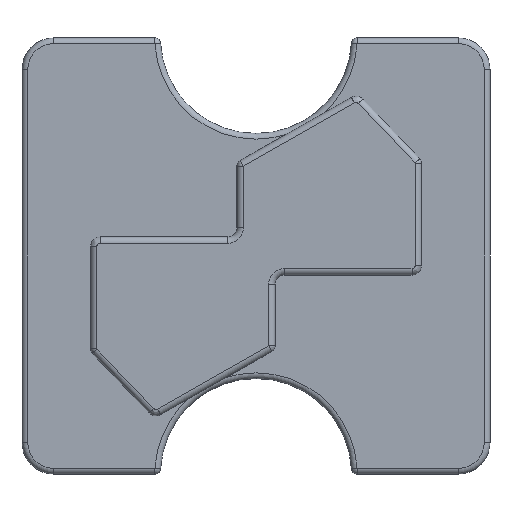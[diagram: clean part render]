
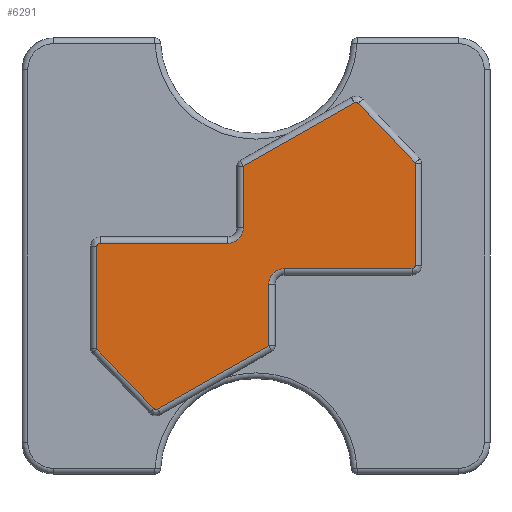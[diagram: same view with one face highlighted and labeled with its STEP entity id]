
A CAD part, front view. The second image highlights one B-rep face of the part: STEP entity #6291.
In plain terms, the highlighted planar face has unit normal (0, -1, 0).
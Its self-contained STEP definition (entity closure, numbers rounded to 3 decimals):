
#385=PLANE('',#6758);
#686=FACE_OUTER_BOUND('',#1089,.T.);
#1089=EDGE_LOOP('',(#5079,#5080,#5081,#5082,#5083,#5084,#5085,#5086,#5087,
#5088,#5089,#5090,#5091,#5092,#5093,#5094));
#1291=LINE('',#9003,#1743);
#1294=LINE('',#9012,#1746);
#1302=LINE('',#9051,#1754);
#1560=LINE('',#11974,#2012);
#1561=LINE('',#11990,#2013);
#1563=LINE('',#12002,#2015);
#1565=LINE('',#12022,#2017);
#1567=LINE('',#12034,#2019);
#1569=LINE('',#12053,#2021);
#1572=LINE('',#12062,#2024);
#1743=VECTOR('',#7205,10.);
#1746=VECTOR('',#7214,10.);
#1754=VECTOR('',#7258,10.);
#2012=VECTOR('',#7874,10.);
#2013=VECTOR('',#7883,10.);
#2015=VECTOR('',#7897,10.);
#2017=VECTOR('',#7909,10.);
#2019=VECTOR('',#7923,10.);
#2021=VECTOR('',#7935,10.);
#2024=VECTOR('',#7944,10.);
#2273=CIRCLE('',#6709,1.);
#2276=CIRCLE('',#6714,5.);
#2280=CIRCLE('',#6719,1.);
#2284=CIRCLE('',#6725,5.);
#2288=CIRCLE('',#6730,1.);
#2293=CIRCLE('',#6737,1.);
#2528=VERTEX_POINT('',#8998);
#2529=VERTEX_POINT('',#9002);
#2532=VERTEX_POINT('',#9010);
#2543=VERTEX_POINT('',#9043);
#2545=VERTEX_POINT('',#9049);
#2829=VERTEX_POINT('',#11967);
#2832=VERTEX_POINT('',#11972);
#2834=VERTEX_POINT('',#11985);
#2836=VERTEX_POINT('',#11994);
#2838=VERTEX_POINT('',#12000);
#2840=VERTEX_POINT('',#12014);
#2842=VERTEX_POINT('',#12020);
#2844=VERTEX_POINT('',#12026);
#2846=VERTEX_POINT('',#12032);
#2848=VERTEX_POINT('',#12046);
#2852=VERTEX_POINT('',#12060);
#3107=EDGE_CURVE('',#2528,#2529,#1291,.T.);
#3112=EDGE_CURVE('',#2532,#2528,#1294,.T.);
#3131=EDGE_CURVE('',#2545,#2543,#1302,.T.);
#3576=EDGE_CURVE('',#2832,#2829,#1560,.T.);
#3578=EDGE_CURVE('',#2834,#2832,#2273,.T.);
#3580=EDGE_CURVE('',#2543,#2834,#1561,.T.);
#3583=EDGE_CURVE('',#2836,#2545,#2276,.T.);
#3586=EDGE_CURVE('',#2838,#2836,#1563,.T.);
#3589=EDGE_CURVE('',#2840,#2838,#2280,.T.);
#3592=EDGE_CURVE('',#2842,#2840,#1565,.T.);
#3595=EDGE_CURVE('',#2844,#2532,#2284,.T.);
#3598=EDGE_CURVE('',#2846,#2844,#1567,.T.);
#3601=EDGE_CURVE('',#2848,#2846,#2288,.T.);
#3604=EDGE_CURVE('',#2829,#2848,#1569,.T.);
#3609=EDGE_CURVE('',#2852,#2842,#1572,.T.);
#3610=EDGE_CURVE('',#2529,#2852,#2293,.T.);
#5079=ORIENTED_EDGE('',*,*,#3112,.F.);
#5080=ORIENTED_EDGE('',*,*,#3595,.F.);
#5081=ORIENTED_EDGE('',*,*,#3598,.F.);
#5082=ORIENTED_EDGE('',*,*,#3601,.F.);
#5083=ORIENTED_EDGE('',*,*,#3604,.F.);
#5084=ORIENTED_EDGE('',*,*,#3576,.F.);
#5085=ORIENTED_EDGE('',*,*,#3578,.F.);
#5086=ORIENTED_EDGE('',*,*,#3580,.F.);
#5087=ORIENTED_EDGE('',*,*,#3131,.F.);
#5088=ORIENTED_EDGE('',*,*,#3583,.F.);
#5089=ORIENTED_EDGE('',*,*,#3586,.F.);
#5090=ORIENTED_EDGE('',*,*,#3589,.F.);
#5091=ORIENTED_EDGE('',*,*,#3592,.F.);
#5092=ORIENTED_EDGE('',*,*,#3609,.F.);
#5093=ORIENTED_EDGE('',*,*,#3610,.F.);
#5094=ORIENTED_EDGE('',*,*,#3107,.F.);
#6291=ADVANCED_FACE('',(#686),#385,.T.);
#6709=AXIS2_PLACEMENT_3D('',#11987,#7877,#7878);
#6714=AXIS2_PLACEMENT_3D('',#11996,#7889,#7890);
#6719=AXIS2_PLACEMENT_3D('',#12016,#7901,#7902);
#6725=AXIS2_PLACEMENT_3D('',#12028,#7915,#7916);
#6730=AXIS2_PLACEMENT_3D('',#12048,#7927,#7928);
#6737=AXIS2_PLACEMENT_3D('',#12072,#7945,#7946);
#6758=AXIS2_PLACEMENT_3D('',#12118,#8000,#8001);
#7205=DIRECTION('',(0.869,0.,0.494));
#7214=DIRECTION('',(0.,0.,1.));
#7258=DIRECTION('',(0.,0.,-1.));
#7874=DIRECTION('',(-0.69,0.,0.724));
#7877=DIRECTION('center_axis',(0.,1.,0.));
#7878=DIRECTION('ref_axis',(-0.146,0.,-0.989));
#7883=DIRECTION('',(-0.869,0.,-0.494));
#7889=DIRECTION('center_axis',(0.,-1.,0.));
#7890=DIRECTION('ref_axis',(-0.707,0.,0.707));
#7897=DIRECTION('',(-1.,0.,0.));
#7901=DIRECTION('center_axis',(0.,1.,0.));
#7902=DIRECTION('ref_axis',(0.707,0.,-0.707));
#7909=DIRECTION('',(0.,0.,-1.));
#7915=DIRECTION('center_axis',(0.,-1.,0.));
#7916=DIRECTION('ref_axis',(0.707,0.,-0.707));
#7923=DIRECTION('',(1.,0.,0.));
#7927=DIRECTION('center_axis',(0.,1.,0.));
#7928=DIRECTION('ref_axis',(-0.707,0.,0.707));
#7935=DIRECTION('',(0.,0.,1.));
#7944=DIRECTION('',(0.69,0.,-0.724));
#7945=DIRECTION('center_axis',(0.,1.,0.));
#7946=DIRECTION('ref_axis',(0.146,0.,0.989));
#8000=DIRECTION('center_axis',(0.,-1.,0.));
#8001=DIRECTION('ref_axis',(0.,0.,-1.));
#8998=CARTESIAN_POINT('',(-4.,-42.,28.247));
#9002=CARTESIAN_POINT('',(30.95,-42.,48.103));
#9003=CARTESIAN_POINT('',(9.94,-42.,36.166));
#9010=CARTESIAN_POINT('',(-4.,-42.,9.));
#9012=CARTESIAN_POINT('',(-4.,-42.,14.705));
#9043=CARTESIAN_POINT('',(4.,-42.,-28.247));
#9049=CARTESIAN_POINT('',(4.,-42.,-9.));
#9051=CARTESIAN_POINT('',(4.,-42.,-14.705));
#11967=CARTESIAN_POINT('',(-50.,-42.,-29.2));
#11972=CARTESIAN_POINT('',(-32.168,-42.,-47.923));
#11974=CARTESIAN_POINT('',(-45.677,-42.,-33.74));
#11985=CARTESIAN_POINT('',(-30.95,-42.,-48.103));
#11987=CARTESIAN_POINT('Origin',(-31.444,-42.,-47.234));
#11990=CARTESIAN_POINT('',(-9.94,-42.,-36.166));
#11994=CARTESIAN_POINT('',(9.,-42.,-4.));
#11996=CARTESIAN_POINT('Origin',(9.,-42.,-9.));
#12000=CARTESIAN_POINT('',(49.,-42.,-4.));
#12002=CARTESIAN_POINT('',(3.,-42.,-4.));
#12014=CARTESIAN_POINT('',(50.,-42.,-3.));
#12016=CARTESIAN_POINT('Origin',(49.,-42.,-3.));
#12020=CARTESIAN_POINT('',(50.,-42.,29.2));
#12022=CARTESIAN_POINT('',(50.,-42.,-3.));
#12026=CARTESIAN_POINT('',(-9.,-42.,4.));
#12028=CARTESIAN_POINT('Origin',(-9.,-42.,9.));
#12032=CARTESIAN_POINT('',(-49.,-42.,4.));
#12034=CARTESIAN_POINT('',(-3.,-42.,4.));
#12046=CARTESIAN_POINT('',(-50.,-42.,3.));
#12048=CARTESIAN_POINT('Origin',(-49.,-42.,3.));
#12053=CARTESIAN_POINT('',(-50.,-42.,3.));
#12060=CARTESIAN_POINT('',(32.168,-42.,47.923));
#12062=CARTESIAN_POINT('',(45.677,-42.,33.74));
#12072=CARTESIAN_POINT('Origin',(31.444,-42.,47.234));
#12118=CARTESIAN_POINT('Origin',(0.,-42.,0.));
